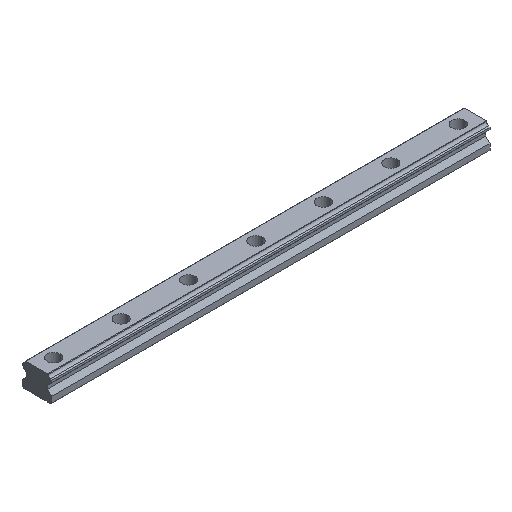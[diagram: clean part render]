
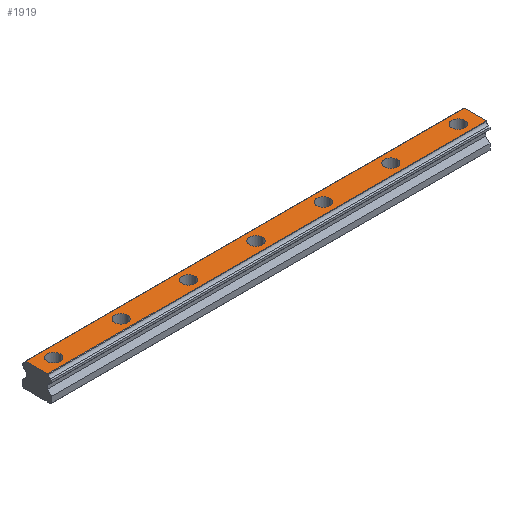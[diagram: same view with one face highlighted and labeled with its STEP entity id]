
A CAD part, isometric view. The second image highlights one B-rep face of the part: STEP entity #1919.
In plain terms, the highlighted planar face has unit normal (0, 0, 1).
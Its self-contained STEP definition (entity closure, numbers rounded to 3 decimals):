
#1452=CARTESIAN_POINT('POINT101',(750.,-19.68,44.));
#1453=VERTEX_POINT('VERTEX101',#1452);
#1460=CARTESIAN_POINT('POINT102',(-30.,-19.68,44.));
#1461=VERTEX_POINT('VERTEX102',#1460);
#1462=CARTESIAN_POINT('POS166',(-30.,-19.68,44.));
#1463=DIRECTION('DIR236',(1.,0.,0.));
#1464=VECTOR('VEC96',#1463,1.);
#1465=LINE('STRAIGHT96',#1462,#1464);
#1466=EDGE_CURVE('EDGE144',#1461,#1453,#1465,.T.);
#1499=CARTESIAN_POINT('POINT103',(-30.,19.68,44.));
#1500=VERTEX_POINT('VERTEX103',#1499);
#1501=CARTESIAN_POINT('POS169',(-30.,19.68,44.));
#1502=DIRECTION('DIR240',(0.,-1.,0.));
#1503=VECTOR('VEC98',#1502,1.);
#1504=LINE('STRAIGHT98',#1501,#1503);
#1505=EDGE_CURVE('EDGE146',#1500,#1461,#1504,.T.);
#1535=CARTESIAN_POINT('POINT104',(750.,19.68,44.));
#1536=VERTEX_POINT('VERTEX104',#1535);
#1545=CARTESIAN_POINT('POS173',(-30.,19.68,44.));
#1546=DIRECTION('DIR245',(1.,0.,0.));
#1547=VECTOR('VEC101',#1546,1.);
#1548=LINE('STRAIGHT101',#1545,#1547);
#1549=EDGE_CURVE('EDGE149',#1500,#1536,#1548,.T.);
#1575=CARTESIAN_POINT('POS175',(750.,19.68,44.));
#1576=DIRECTION('DIR248',(0.,1.,0.));
#1577=VECTOR('VEC102',#1576,1.);
#1578=LINE('STRAIGHT102',#1575,#1577);
#1579=EDGE_CURVE('EDGE150',#1453,#1536,#1578,.T.);
#1604=CARTESIAN_POINT('POINT105',(131.5,0.,
   44.));
#1605=VERTEX_POINT('VERTEX105',#1604);
#1613=CARTESIAN_POINT('POINT106',(108.5,0.,
   44.));
#1614=VERTEX_POINT('VERTEX106',#1613);
#1621=CARTESIAN_POINT('POS179',(120.,0.,44.));
#1622=DIRECTION('DIR253',(0.,0.,-1.));
#1623=DIRECTION('DIR254',(1.,0.,0.));
#1624=AXIS2_PLACEMENT_3D('AXIS75',#1621,#1622,#1623);
#1625=CIRCLE('ELLIPSE29',#1624,11.5);
#1626=EDGE_CURVE('EDGE153',#1605,#1614,#1625,.T.);
#1637=EDGE_CURVE('EDGE154',#1614,#1605,#1625,.T.);
#1644=CARTESIAN_POINT('POINT107',(251.5,0.,
   44.));
#1645=VERTEX_POINT('VERTEX107',#1644);
#1653=CARTESIAN_POINT('POINT108',(228.5,0.,
   44.));
#1654=VERTEX_POINT('VERTEX108',#1653);
#1661=CARTESIAN_POINT('POS183',(240.,0.,44.));
#1662=DIRECTION('DIR259',(0.,0.,-1.));
#1663=DIRECTION('DIR260',(1.,0.,0.));
#1664=AXIS2_PLACEMENT_3D('AXIS77',#1661,#1662,#1663);
#1665=CIRCLE('ELLIPSE30',#1664,11.5);
#1666=EDGE_CURVE('EDGE157',#1645,#1654,#1665,.T.);
#1677=EDGE_CURVE('EDGE158',#1654,#1645,#1665,.T.);
#1684=CARTESIAN_POINT('POINT109',(371.5,0.,
   44.));
#1685=VERTEX_POINT('VERTEX109',#1684);
#1693=CARTESIAN_POINT('POINT110',(348.5,0.,
   44.));
#1694=VERTEX_POINT('VERTEX110',#1693);
#1701=CARTESIAN_POINT('POS187',(360.,0.,44.));
#1702=DIRECTION('DIR265',(0.,0.,-1.));
#1703=DIRECTION('DIR266',(1.,0.,0.));
#1704=AXIS2_PLACEMENT_3D('AXIS79',#1701,#1702,#1703);
#1705=CIRCLE('ELLIPSE31',#1704,11.5);
#1706=EDGE_CURVE('EDGE161',#1685,#1694,#1705,.T.);
#1717=EDGE_CURVE('EDGE162',#1694,#1685,#1705,.T.);
#1724=CARTESIAN_POINT('POINT111',(491.5,0.,
   44.));
#1725=VERTEX_POINT('VERTEX111',#1724);
#1733=CARTESIAN_POINT('POINT112',(468.5,
   0.,44.));
#1734=VERTEX_POINT('VERTEX112',#1733);
#1741=CARTESIAN_POINT('POS191',(480.,0.,44.));
#1742=DIRECTION('DIR271',(0.,0.,-1.));
#1743=DIRECTION('DIR272',(1.,0.,0.));
#1744=AXIS2_PLACEMENT_3D('AXIS81',#1741,#1742,#1743);
#1745=CIRCLE('ELLIPSE32',#1744,11.5);
#1746=EDGE_CURVE('EDGE165',#1725,#1734,#1745,.T.);
#1757=EDGE_CURVE('EDGE166',#1734,#1725,#1745,.T.);
#1764=CARTESIAN_POINT('POINT113',(611.5,0.,
   44.));
#1765=VERTEX_POINT('VERTEX113',#1764);
#1773=CARTESIAN_POINT('POINT114',(588.5,0.,
   44.));
#1774=VERTEX_POINT('VERTEX114',#1773);
#1781=CARTESIAN_POINT('POS195',(600.,0.,44.));
#1782=DIRECTION('DIR277',(0.,0.,-1.));
#1783=DIRECTION('DIR278',(1.,0.,0.));
#1784=AXIS2_PLACEMENT_3D('AXIS83',#1781,#1782,#1783);
#1785=CIRCLE('ELLIPSE33',#1784,11.5);
#1786=EDGE_CURVE('EDGE169',#1765,#1774,#1785,.T.);
#1797=EDGE_CURVE('EDGE170',#1774,#1765,#1785,.T.);
#1804=CARTESIAN_POINT('POINT115',(731.5,0.,
   44.));
#1805=VERTEX_POINT('VERTEX115',#1804);
#1813=CARTESIAN_POINT('POINT116',(708.5,0.,
   44.));
#1814=VERTEX_POINT('VERTEX116',#1813);
#1821=CARTESIAN_POINT('POS199',(720.,0.,44.));
#1822=DIRECTION('DIR283',(0.,0.,-1.));
#1823=DIRECTION('DIR284',(1.,0.,0.));
#1824=AXIS2_PLACEMENT_3D('AXIS85',#1821,#1822,#1823);
#1825=CIRCLE('ELLIPSE34',#1824,11.5);
#1826=EDGE_CURVE('EDGE173',#1805,#1814,#1825,.T.);
#1837=EDGE_CURVE('EDGE174',#1814,#1805,#1825,.T.);
#1869=ORIENTED_EDGE('COEDGE335',*,*,#1837,.T.);
#1870=ORIENTED_EDGE('COEDGE336',*,*,#1826,.T.);
#1871=EDGE_LOOP('NONE',(#1869,#1870));
#1872=FACE_BOUND('LOOP1',#1871,.T.);
#1873=ORIENTED_EDGE('COEDGE337',*,*,#1797,.T.);
#1874=ORIENTED_EDGE('COEDGE338',*,*,#1786,.T.);
#1875=EDGE_LOOP('NONE',(#1873,#1874));
#1876=FACE_BOUND('LOOP1',#1875,.T.);
#1877=ORIENTED_EDGE('COEDGE339',*,*,#1757,.T.);
#1878=ORIENTED_EDGE('COEDGE340',*,*,#1746,.T.);
#1879=EDGE_LOOP('NONE',(#1877,#1878));
#1880=FACE_BOUND('LOOP1',#1879,.T.);
#1881=ORIENTED_EDGE('COEDGE341',*,*,#1717,.T.);
#1882=ORIENTED_EDGE('COEDGE342',*,*,#1706,.T.);
#1883=EDGE_LOOP('NONE',(#1881,#1882));
#1884=FACE_BOUND('LOOP1',#1883,.T.);
#1885=ORIENTED_EDGE('COEDGE343',*,*,#1677,.T.);
#1886=ORIENTED_EDGE('COEDGE344',*,*,#1666,.T.);
#1887=EDGE_LOOP('NONE',(#1885,#1886));
#1888=FACE_BOUND('LOOP1',#1887,.T.);
#1889=ORIENTED_EDGE('COEDGE345',*,*,#1637,.T.);
#1890=ORIENTED_EDGE('COEDGE346',*,*,#1626,.T.);
#1891=EDGE_LOOP('NONE',(#1889,#1890));
#1892=FACE_BOUND('LOOP1',#1891,.T.);
#1893=CARTESIAN_POINT('POINT119',(-11.5,0.,
   44.));
#1894=VERTEX_POINT('VERTEX119',#1893);
#1895=CARTESIAN_POINT('POINT120',(11.5,0.,
   44.));
#1896=VERTEX_POINT('VERTEX120',#1895);
#1897=CARTESIAN_POINT('POS203',(0.,0.,44.));
#1898=DIRECTION('DIR291',(0.,0.,-1.));
#1899=DIRECTION('DIR292',(1.,0.,0.));
#1900=AXIS2_PLACEMENT_3D('AXIS89',#1897,#1898,#1899);
#1901=CIRCLE('ELLIPSE36',#1900,11.5);
#1902=EDGE_CURVE('EDGE177',#1894,#1896,#1901,.T.);
#1903=ORIENTED_EDGE('COEDGE347',*,*,#1902,.T.);
#1904=EDGE_CURVE('EDGE178',#1896,#1894,#1901,.T.);
#1905=ORIENTED_EDGE('COEDGE348',*,*,#1904,.T.);
#1906=EDGE_LOOP('NONE',(#1903,#1905));
#1907=FACE_BOUND('LOOP1',#1906,.T.);
#1908=ORIENTED_EDGE('COEDGE349',*,*,#1579,.T.);
#1909=ORIENTED_EDGE('COEDGE350',*,*,#1549,.F.);
#1910=ORIENTED_EDGE('COEDGE351',*,*,#1505,.T.);
#1911=ORIENTED_EDGE('COEDGE352',*,*,#1466,.T.);
#1912=EDGE_LOOP('NONE',(#1908,#1909,#1910,#1911));
#1913=FACE_BOUND('LOOP1',#1912,.T.);
#1914=CARTESIAN_POINT('POS204',(-30.,0.,44.
   ));
#1915=DIRECTION('DIR293',(0.,0.,1.));
#1916=DIRECTION('DIR294',(1.,0.,0.));
#1917=AXIS2_PLACEMENT_3D('AXIS90',#1914,#1915,#1916);
#1918=PLANE('PLANE37',#1917);
#1919=ADVANCED_FACE('FACE67',(#1872,#1876,#1880,#1884,#1888,#1892,#1907,
   #1913),#1918,.T.);
